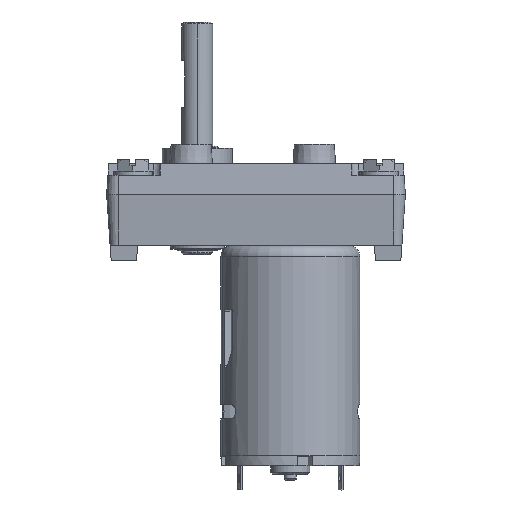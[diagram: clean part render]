
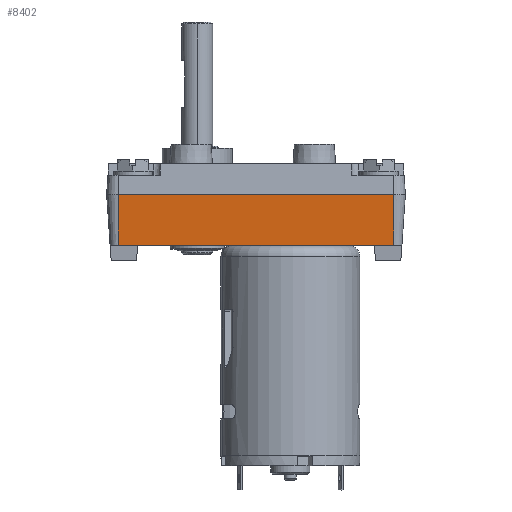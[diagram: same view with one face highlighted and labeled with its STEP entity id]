
A CAD part, left-side view. The second image highlights one B-rep face of the part: STEP entity #8402.
In plain terms, the highlighted planar face has unit normal (-0.998, 0, -0.07).
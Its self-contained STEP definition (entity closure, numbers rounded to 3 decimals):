
#185 = FACE_OUTER_BOUND ( 'NONE', #14245, .T. ) ;
#402 = CARTESIAN_POINT ( 'NONE',  ( 0.909, 3., -13. ) ) ;
#1065 = EDGE_CURVE ( 'NONE', #8092, #15075, #9976, .T. ) ;
#1139 = EDGE_CURVE ( 'NONE', #6005, #15075, #14653, .T. ) ;
#1146 = CARTESIAN_POINT ( 'NONE',  ( 0., 3., 0. ) ) ;
#1442 = EDGE_CURVE ( 'NONE', #15200, #8092, #10147, .T. ) ;
#3443 = VECTOR ( 'NONE', #4062, 1000. ) ;
#4062 = DIRECTION ( 'NONE',  ( 0., -1., 0. ) ) ;
#4180 = ORIENTED_EDGE ( 'NONE', *, *, #1065, .T. ) ;
#4288 = DIRECTION ( 'NONE',  ( -0.07, 0., 0.998 ) ) ;
#4411 = EDGE_CURVE ( 'NONE', #15200, #6005, #9713, .T. ) ;
#4726 = CARTESIAN_POINT ( 'NONE',  ( 0., 3., 0. ) ) ;
#4727 = DIRECTION ( 'NONE',  ( -0.998, 0., -0.07 ) ) ;
#4938 = VECTOR ( 'NONE', #13847, 1000. ) ;
#5337 = ORIENTED_EDGE ( 'NONE', *, *, #1442, .T. ) ;
#5839 = AXIS2_PLACEMENT_3D ( 'NONE', #1146, #4727, #14154 ) ;
#6005 = VERTEX_POINT ( 'NONE', #14998 ) ;
#6572 = CARTESIAN_POINT ( 'NONE',  ( 0.909, 74., -13. ) ) ;
#7324 = VECTOR ( 'NONE', #12114, 1000. ) ;
#8092 = VERTEX_POINT ( 'NONE', #402 ) ;
#8402 = ADVANCED_FACE ( 'NONE', ( #185 ), #14316, .T. ) ;
#9039 = CARTESIAN_POINT ( 'NONE',  ( 0., 3., 0. ) ) ;
#9713 = LINE ( 'NONE', #10876, #7324 ) ;
#9976 = LINE ( 'NONE', #4726, #14276 ) ;
#10147 = LINE ( 'NONE', #12596, #3443 ) ;
#10876 = CARTESIAN_POINT ( 'NONE',  ( 0., 74., 0. ) ) ;
#11021 = CARTESIAN_POINT ( 'NONE',  ( 0., 3., 0. ) ) ;
#12114 = DIRECTION ( 'NONE',  ( -0.07, 0., 0.998 ) ) ;
#12596 = CARTESIAN_POINT ( 'NONE',  ( 0.909, 74., -13. ) ) ;
#13847 = DIRECTION ( 'NONE',  ( 0., -1., 0. ) ) ;
#14154 = DIRECTION ( 'NONE',  ( 0.07, 0., -0.998 ) ) ;
#14245 = EDGE_LOOP ( 'NONE', ( #15244, #14435, #5337, #4180 ) ) ;
#14276 = VECTOR ( 'NONE', #4288, 1000. ) ;
#14316 = PLANE ( 'NONE',  #5839 ) ;
#14435 = ORIENTED_EDGE ( 'NONE', *, *, #4411, .F. ) ;
#14653 = LINE ( 'NONE', #9039, #4938 ) ;
#14998 = CARTESIAN_POINT ( 'NONE',  ( 0., 74., 0. ) ) ;
#15075 = VERTEX_POINT ( 'NONE', #11021 ) ;
#15200 = VERTEX_POINT ( 'NONE', #6572 ) ;
#15244 = ORIENTED_EDGE ( 'NONE', *, *, #1139, .F. ) ;
